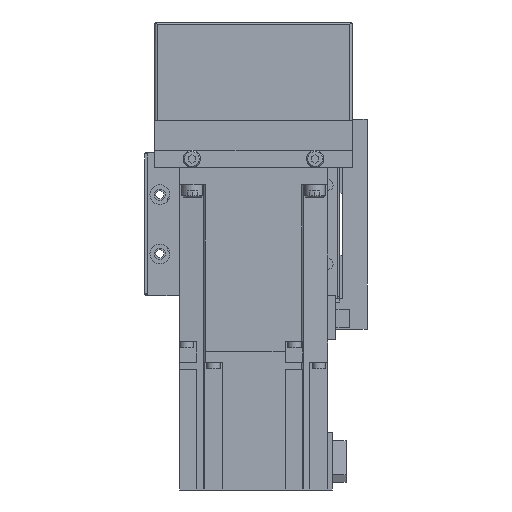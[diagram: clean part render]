
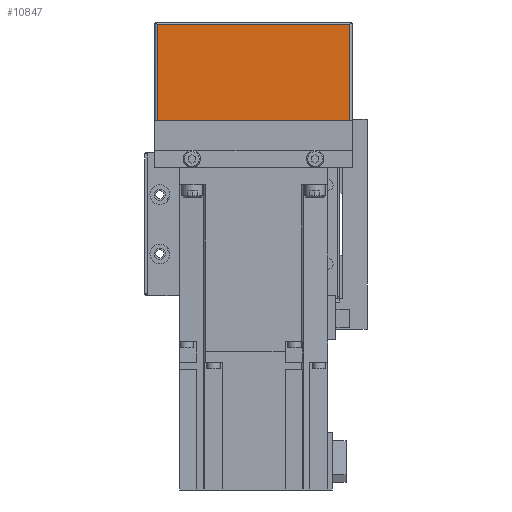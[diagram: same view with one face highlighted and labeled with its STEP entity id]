
A CAD part, left-side view. The second image highlights one B-rep face of the part: STEP entity #10847.
In plain terms, the highlighted planar face has unit normal (-1, 0, 0) as drawn and (0, 1, 0) by its records, which use the part's own axes.
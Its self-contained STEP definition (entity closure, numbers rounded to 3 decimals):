
#2526=ORIENTED_EDGE('',*,*,#4595,.T.);
#2527=ORIENTED_EDGE('',*,*,#4596,.T.);
#2528=ORIENTED_EDGE('',*,*,#4597,.F.);
#2529=ORIENTED_EDGE('',*,*,#4598,.T.);
#4595=EDGE_CURVE('',#5818,#5819,#6858,.T.);
#4596=EDGE_CURVE('',#5819,#5820,#6859,.T.);
#4597=EDGE_CURVE('',#5821,#5820,#6860,.T.);
#4598=EDGE_CURVE('',#5821,#5818,#6861,.T.);
#5818=VERTEX_POINT('',#17417);
#5819=VERTEX_POINT('',#17418);
#5820=VERTEX_POINT('',#17420);
#5821=VERTEX_POINT('',#17422);
#6858=LINE('',#17416,#7906);
#6859=LINE('',#17419,#7907);
#6860=LINE('',#17421,#7908);
#6861=LINE('',#17423,#7909);
#7906=VECTOR('',#14228,1000.);
#7907=VECTOR('',#14229,1000.);
#7908=VECTOR('',#14230,1000.);
#7909=VECTOR('',#14231,1000.);
#8895=EDGE_LOOP('',(#2526,#2527,#2528,#2529));
#9769=FACE_BOUND('',#8895,.T.);
#10317=PLANE('',#11832);
#10847=ADVANCED_FACE('',(#9769),#10317,.T.);
#11832=AXIS2_PLACEMENT_3D('',#17415,#14226,#14227);
#14226=DIRECTION('',(0.,1.,0.));
#14227=DIRECTION('',(0.,0.,1.));
#14228=DIRECTION('',(0.,0.,1.));
#14229=DIRECTION('',(1.,0.,0.));
#14230=DIRECTION('',(0.,0.,1.));
#14231=DIRECTION('',(-1.,0.,0.));
#17415=CARTESIAN_POINT('',(40.,151.,-52.));
#17416=CARTESIAN_POINT('',(-39.,151.,-64.));
#17417=CARTESIAN_POINT('',(-39.,151.,-51.));
#17418=CARTESIAN_POINT('',(-39.,151.,-12.01));
#17419=CARTESIAN_POINT('',(40.,151.,-12.01));
#17420=CARTESIAN_POINT('',(39.,151.,-12.01));
#17421=CARTESIAN_POINT('',(39.,151.,-64.));
#17422=CARTESIAN_POINT('',(39.,151.,-51.));
#17423=CARTESIAN_POINT('',(52.,151.,-51.));
